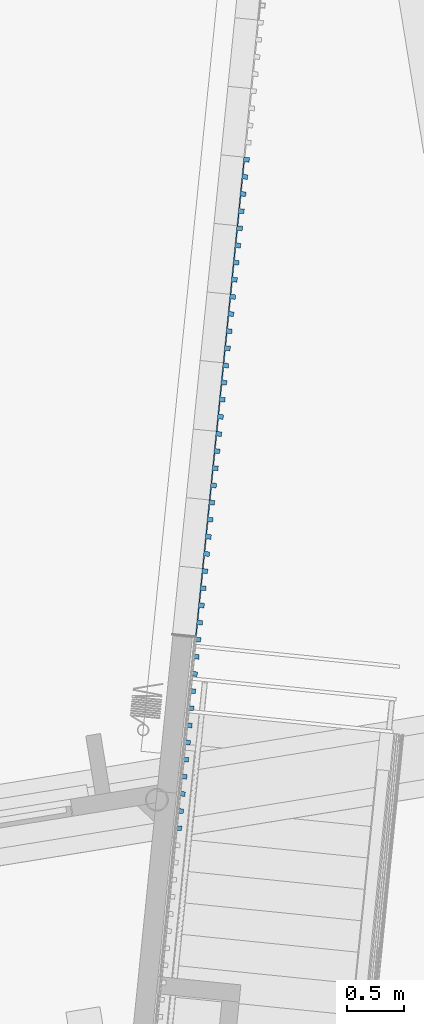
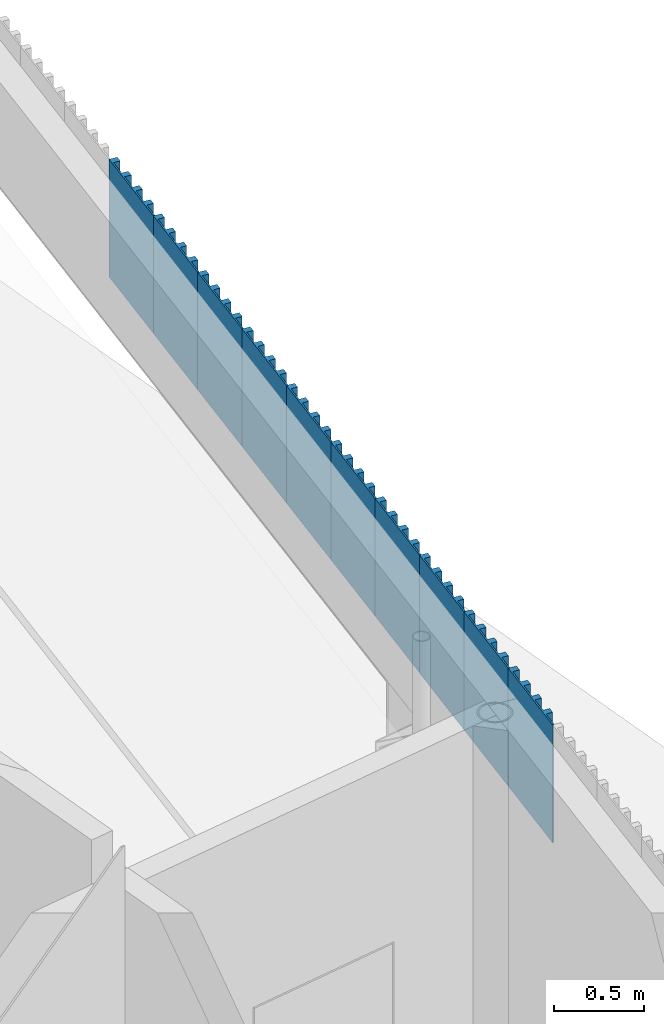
# One storey, part 15 of 23: 10 plates, 2 elements without a shape of their own.
"""IFC2X3 building model written with IfcOpenShell, lengths in millimetres."""

from ifc_helpers import new_model, entity, si_unit, converted_unit, derived_unit, direction, frame, origin, origin_with_axes, place, context, subcontext, project, spatial, faceted_brep, material, type_object, element, aggregate, save


model = new_model("IFC2X3")

# Units and contexts
plan_context = context("Plan", 3, precision=1e-05, world=origin_with_axes())
model_context = context("Model", 3, precision=0.01, world=origin(), true_north=direction((6.12323399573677e-17, 1.0)))
body_context = subcontext(model_context, "Body", "Model", "MODEL_VIEW")
ifc_project = project(units=[converted_unit("PLANEANGLEUNIT", "DEGREE", entity("IfcPositiveLengthMeasure", 0.0174532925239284), si_unit("PLANEANGLEUNIT", "RADIAN"), dimensions=[0, 0, 0, 0, 0, 0, 0]), si_unit("AREAUNIT", "SQUARE_METRE"), si_unit("LENGTHUNIT", "METRE", prefix="MILLI"), si_unit("MASSUNIT", "GRAM", prefix="KILO"), si_unit("POWERUNIT", "WATT"), si_unit("PRESSUREUNIT", "PASCAL", prefix="KILO"), si_unit("FORCEUNIT", "NEWTON", prefix="KILO"), si_unit("ELECTRICVOLTAGEUNIT", "VOLT"), si_unit("ELECTRICCURRENTUNIT", "AMPERE"), si_unit("THERMODYNAMICTEMPERATUREUNIT", "DEGREE_CELSIUS"), si_unit("TIMEUNIT", "SECOND"), si_unit("VOLUMEUNIT", "CUBIC_METRE"), derived_unit("LINEARVELOCITYUNIT", [(si_unit("LENGTHUNIT", "METRE"), 1), (si_unit("TIMEUNIT", "SECOND"), -1)]), derived_unit("VOLUMETRICFLOWRATEUNIT", [(si_unit("VOLUMEUNIT", "CUBIC_METRE"), 1), (si_unit("TIMEUNIT", "SECOND"), -1)]), derived_unit("THERMALTRANSMITTANCEUNIT", [(si_unit("POWERUNIT", "WATT"), 1), (si_unit("THERMODYNAMICTEMPERATUREUNIT", "KELVIN"), -1), (si_unit("AREAUNIT", "SQUARE_METRE"), -1)]), derived_unit("SOUNDPRESSUREUNIT", [(si_unit("PRESSUREUNIT", "PASCAL"), 1)])], contexts=[model_context, plan_context])

# Site, building, storey
site_placement = place(None, frame((-0.00071070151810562, 0.00438415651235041, 0.0), z_axis=(0.0, 0.0, 1.0), x_axis=(-0.160236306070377, 0.987078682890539, 0.0)))
site = spatial("IfcSite", under=ifc_project, at=site_placement, Name="Default", CompositionType="ELEMENT")
building_placement = place(site_placement, origin_with_axes())
building = spatial("IfcBuilding", under=site, at=building_placement, Name="TOO", CompositionType="ELEMENT")
storey_placement = place(building_placement, frame((0.0, 0.0, 58999.9999999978), z_axis=(0.0, 0.0, 1.0), x_axis=(1.0, 0.0, 0.0)))
storey = spatial("IfcBuildingStorey", under=building, at=storey_placement, Name="Nivå F", CompositionType="ELEMENT", Elevation=58999.9999999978)

# Curtain wall, plates
curtain_wall_type = type_object("IfcCurtainWallType", Name="Curtain Wall:Curtain Wall Standard (Bruk kun denne)", PredefinedType="NOTDEFINED")
curtain_wall_1_placement = place(storey_placement, frame((0.0, 0.0, -58999.9999999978), z_axis=(0.0, 0.0, 1.0), x_axis=(1.0, 0.0, 0.0)))
curtain_wall_1 = element("IfcCurtainWall", 1, at=curtain_wall_1_placement, inside=storey, type_object=curtain_wall_type, Name="Curtain Wall:Curtain Wall Standard (Bruk kun denne)", ObjectType="Curtain Wall:Curtain Wall Standard (Bruk kun denne)")
ifc_material = material(Name="A200 - Treverk - Eik")
plate_type_1 = type_object("IfcPlateType", Name="A246 - T01 Trespiler-panel 600:A246-T01 Trespiler-panel 600", PredefinedType="CURTAIN_PANEL", material=ifc_material)
plate_1_placement = place(curtain_wall_1_placement, frame((770772.824268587, -506676.341001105, 61699.9999999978), z_axis=(0.0, 0.0, 1.0), x_axis=(0.965925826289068, -0.258819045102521, 0.0)))
plate_1 = element("IfcPlate", 2, at=plate_1_placement, type_object=plate_type_1, Name="A246 - T01 Trespiler-panel 600:A246-T01 Trespiler-panel 600", ObjectType="A246 - T01 Trespiler-panel 600:A246-T01 Trespiler-panel 600", context=body_context, shape_type="Brep", body=[
    faceted_brep([(-150.0, -50.0000000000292, 800.000000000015), (-150.0, -9.99999999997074, 800.000000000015), (-150.0, -9.99999999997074, 0.0), (-150.0, -50.0000000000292, 0.0), (-190.0, -9.99999999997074, 800.000000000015), (-190.0, -9.99999999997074, 0.0), (-190.0, -50.0000000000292, 800.000000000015), (-190.0, -50.0000000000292, 0.0)], [[[0, 1, 2, 3]], [[1, 4, 5, 2]], [[4, 6, 7, 5]], [[6, 0, 3, 7]], [[3, 2, 5, 7]], [[6, 4, 1, 0]]], orient=[[False], [False], [False], [False], [False], [False]]),
    faceted_brep([(-3.5527136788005e-15, -50.0000000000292, 800.000000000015), (-3.5527136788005e-15, -9.99999999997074, 800.000000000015), (-3.5527136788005e-15, -9.99999999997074, 0.0), (-3.5527136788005e-15, -50.0000000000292, 0.0), (-40.0, -9.99999999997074, 800.000000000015), (-40.0, -9.99999999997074, 0.0), (-40.0, -50.0000000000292, 800.000000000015), (-40.0, -50.0000000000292, 0.0)], [[[0, 1, 2, 3]], [[1, 4, 5, 2]], [[4, 6, 7, 5]], [[6, 0, 3, 7]], [[3, 2, 5, 7]], [[6, 4, 1, 0]]], orient=[[False], [False], [False], [False], [False], [False]]),
    faceted_brep([(150.0, -50.0000000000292, 800.000000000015), (150.0, -9.99999999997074, 800.000000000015), (150.0, -9.99999999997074, 0.0), (150.0, -50.0000000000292, 0.0), (110.0, -9.99999999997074, 800.000000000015), (110.0, -9.99999999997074, 0.0), (110.0, -50.0000000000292, 800.000000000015), (110.0, -50.0000000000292, 0.0)], [[[0, 1, 2, 3]], [[1, 4, 5, 2]], [[4, 6, 7, 5]], [[6, 0, 3, 7]], [[3, 2, 5, 7]], [[6, 4, 1, 0]]], orient=[[False], [False], [False], [False], [False], [False]]),
    faceted_brep([(300.0, -50.0000000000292, 800.000000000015), (300.0, -9.99999999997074, 800.000000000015), (300.0, -9.99999999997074, 0.0), (300.0, -50.0000000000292, 0.0), (260.0, -9.99999999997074, 800.000000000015), (260.0, -9.99999999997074, 0.0), (260.0, -50.0000000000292, 800.000000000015), (260.0, -50.0000000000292, 0.0)], [[[0, 1, 2, 3]], [[1, 4, 5, 2]], [[4, 6, 7, 5]], [[6, 0, 3, 7]], [[3, 2, 5, 7]], [[6, 4, 1, 0]]], orient=[[False], [False], [False], [False], [False], [False]]),
    faceted_brep([(300.0, -10.0, 800.000000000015), (300.0, 0.0, 800.000000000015), (300.0, 0.0, 0.0), (300.0, -10.0, 0.0), (-300.0, 0.0, 800.000000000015), (-300.0, 0.0, 0.0), (-300.0, -10.0, 800.000000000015), (-300.0, -10.0, 0.0)], [[[0, 1, 2, 3]], [[1, 4, 5, 2]], [[4, 6, 7, 5]], [[6, 0, 3, 7]], [[3, 2, 5, 7]], [[6, 4, 1, 0]]], orient=[[False], [False], [False], [False], [False], [False]]),
])
plate_2_placement = place(curtain_wall_1_placement, frame((771352.37976436, -506831.632428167, 61699.9999999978), z_axis=(0.0, 0.0, 1.0), x_axis=(0.965925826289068, -0.258819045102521, 0.0)))
plate_2 = element("IfcPlate", 3, at=plate_2_placement, type_object=plate_type_1, Name="A246 - T01 Trespiler-panel 600:A246-T01 Trespiler-panel 600", ObjectType="A246 - T01 Trespiler-panel 600:A246-T01 Trespiler-panel 600", context=body_context, shape_type="Brep", body=[
    faceted_brep([(-150.0, -50.0000000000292, 800.000000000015), (-150.0, -9.99999999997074, 800.000000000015), (-150.0, -9.99999999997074, 0.0), (-150.0, -50.0000000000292, 0.0), (-190.0, -9.99999999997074, 800.000000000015), (-190.0, -9.99999999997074, 0.0), (-190.0, -50.0000000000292, 800.000000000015), (-190.0, -50.0000000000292, 0.0)], [[[0, 1, 2, 3]], [[1, 4, 5, 2]], [[4, 6, 7, 5]], [[6, 0, 3, 7]], [[3, 2, 5, 7]], [[6, 4, 1, 0]]], orient=[[False], [False], [False], [False], [False], [False]]),
    faceted_brep([(-3.5527136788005e-15, -50.0000000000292, 800.000000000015), (-3.5527136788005e-15, -9.99999999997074, 800.000000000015), (-3.5527136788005e-15, -9.99999999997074, 0.0), (-3.5527136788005e-15, -50.0000000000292, 0.0), (-40.0, -9.99999999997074, 800.000000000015), (-40.0, -9.99999999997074, 0.0), (-40.0, -50.0000000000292, 800.000000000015), (-40.0, -50.0000000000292, 0.0)], [[[0, 1, 2, 3]], [[1, 4, 5, 2]], [[4, 6, 7, 5]], [[6, 0, 3, 7]], [[3, 2, 5, 7]], [[6, 4, 1, 0]]], orient=[[False], [False], [False], [False], [False], [False]]),
    faceted_brep([(150.0, -50.0000000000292, 800.000000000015), (150.0, -9.99999999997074, 800.000000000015), (150.0, -9.99999999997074, 0.0), (150.0, -50.0000000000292, 0.0), (110.0, -9.99999999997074, 800.000000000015), (110.0, -9.99999999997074, 0.0), (110.0, -50.0000000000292, 800.000000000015), (110.0, -50.0000000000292, 0.0)], [[[0, 1, 2, 3]], [[1, 4, 5, 2]], [[4, 6, 7, 5]], [[6, 0, 3, 7]], [[3, 2, 5, 7]], [[6, 4, 1, 0]]], orient=[[False], [False], [False], [False], [False], [False]]),
    faceted_brep([(300.0, -50.0000000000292, 800.000000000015), (300.0, -9.99999999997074, 800.000000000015), (300.0, -9.99999999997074, 0.0), (300.0, -50.0000000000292, 0.0), (260.0, -9.99999999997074, 800.000000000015), (260.0, -9.99999999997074, 0.0), (260.0, -50.0000000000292, 800.000000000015), (260.0, -50.0000000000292, 0.0)], [[[0, 1, 2, 3]], [[1, 4, 5, 2]], [[4, 6, 7, 5]], [[6, 0, 3, 7]], [[3, 2, 5, 7]], [[6, 4, 1, 0]]], orient=[[False], [False], [False], [False], [False], [False]]),
    faceted_brep([(300.0, -10.0, 800.000000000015), (300.0, 0.0, 800.000000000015), (300.0, 0.0, 0.0), (300.0, -10.0, 0.0), (-300.0, 0.0, 800.000000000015), (-300.0, 0.0, 0.0), (-300.0, -10.0, 800.000000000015), (-300.0, -10.0, 0.0)], [[[0, 1, 2, 3]], [[1, 4, 5, 2]], [[4, 6, 7, 5]], [[6, 0, 3, 7]], [[3, 2, 5, 7]], [[6, 4, 1, 0]]], orient=[[False], [False], [False], [False], [False], [False]]),
])
plate_3_placement = place(curtain_wall_1_placement, frame((771931.935260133, -506986.923855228, 61699.9999999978), z_axis=(0.0, 0.0, 1.0), x_axis=(0.965925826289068, -0.258819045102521, 0.0)))
plate_3 = element("IfcPlate", 4, at=plate_3_placement, type_object=plate_type_1, Name="A246 - T01 Trespiler-panel 600:A246-T01 Trespiler-panel 600", ObjectType="A246 - T01 Trespiler-panel 600:A246-T01 Trespiler-panel 600", context=body_context, shape_type="Brep", body=[
    faceted_brep([(-150.0, -50.0000000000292, 800.000000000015), (-150.0, -9.99999999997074, 800.000000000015), (-150.0, -9.99999999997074, 0.0), (-150.0, -50.0000000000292, 0.0), (-190.0, -9.99999999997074, 800.000000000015), (-190.0, -9.99999999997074, 0.0), (-190.0, -50.0000000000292, 800.000000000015), (-190.0, -50.0000000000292, 0.0)], [[[0, 1, 2, 3]], [[1, 4, 5, 2]], [[4, 6, 7, 5]], [[6, 0, 3, 7]], [[3, 2, 5, 7]], [[6, 4, 1, 0]]], orient=[[False], [False], [False], [False], [False], [False]]),
    faceted_brep([(-3.5527136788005e-15, -50.0000000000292, 800.000000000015), (-3.5527136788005e-15, -9.99999999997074, 800.000000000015), (-3.5527136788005e-15, -9.99999999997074, 0.0), (-3.5527136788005e-15, -50.0000000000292, 0.0), (-40.0, -9.99999999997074, 800.000000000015), (-40.0, -9.99999999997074, 0.0), (-40.0, -50.0000000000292, 800.000000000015), (-40.0, -50.0000000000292, 0.0)], [[[0, 1, 2, 3]], [[1, 4, 5, 2]], [[4, 6, 7, 5]], [[6, 0, 3, 7]], [[3, 2, 5, 7]], [[6, 4, 1, 0]]], orient=[[False], [False], [False], [False], [False], [False]]),
    faceted_brep([(150.0, -50.0000000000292, 800.000000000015), (150.0, -9.99999999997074, 800.000000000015), (150.0, -9.99999999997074, 0.0), (150.0, -50.0000000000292, 0.0), (110.0, -9.99999999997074, 800.000000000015), (110.0, -9.99999999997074, 0.0), (110.0, -50.0000000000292, 800.000000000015), (110.0, -50.0000000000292, 0.0)], [[[0, 1, 2, 3]], [[1, 4, 5, 2]], [[4, 6, 7, 5]], [[6, 0, 3, 7]], [[3, 2, 5, 7]], [[6, 4, 1, 0]]], orient=[[False], [False], [False], [False], [False], [False]]),
    faceted_brep([(300.0, -50.0000000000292, 800.000000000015), (300.0, -9.99999999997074, 800.000000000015), (300.0, -9.99999999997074, 0.0), (300.0, -50.0000000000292, 0.0), (260.0, -9.99999999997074, 800.000000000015), (260.0, -9.99999999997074, 0.0), (260.0, -50.0000000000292, 800.000000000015), (260.0, -50.0000000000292, 0.0)], [[[0, 1, 2, 3]], [[1, 4, 5, 2]], [[4, 6, 7, 5]], [[6, 0, 3, 7]], [[3, 2, 5, 7]], [[6, 4, 1, 0]]], orient=[[False], [False], [False], [False], [False], [False]]),
    faceted_brep([(300.0, -10.0, 800.000000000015), (300.0, 0.0, 800.000000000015), (300.0, 0.0, 0.0), (300.0, -10.0, 0.0), (-300.0, 0.0, 800.000000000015), (-300.0, 0.0, 0.0), (-300.0, -10.0, 800.000000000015), (-300.0, -10.0, 0.0)], [[[0, 1, 2, 3]], [[1, 4, 5, 2]], [[4, 6, 7, 5]], [[6, 0, 3, 7]], [[3, 2, 5, 7]], [[6, 4, 1, 0]]], orient=[[False], [False], [False], [False], [False], [False]]),
])
aggregate(curtain_wall_1, [plate_1, plate_2, plate_3])

curtain_wall_2_placement = place(storey_placement, frame((0.0, 0.0, -58999.9999999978), z_axis=(0.0, 0.0, 1.0), x_axis=(1.0, 0.0, 0.0)))
curtain_wall_2 = element("IfcCurtainWall", 5, at=curtain_wall_2_placement, inside=storey, type_object=curtain_wall_type, Name="Curtain Wall:Curtain Wall Standard (Bruk kun denne)", ObjectType="Curtain Wall:Curtain Wall Standard (Bruk kun denne)")
plate_type_2 = type_object("IfcPlateType", Name="A246 - T01 Trespiler-panel 600:A246-T01 Trespiler-panel 600", PredefinedType="CURTAIN_PANEL", material=ifc_material)
plate_4_placement = place(curtain_wall_2_placement, frame((774250.157243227, -507608.089563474, 61702.4999999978), z_axis=(0.0, 0.0, 1.0), x_axis=(0.965925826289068, -0.258819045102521, 0.0)))
plate_4 = element("IfcPlate", 6, at=plate_4_placement, type_object=plate_type_2, Name="A246 - T01 Trespiler-panel 600:A246-T01 Trespiler-panel 600", ObjectType="A246 - T01 Trespiler-panel 600:A246-T01 Trespiler-panel 600", context=body_context, shape_type="Brep", body=[
    faceted_brep([(-150.0, -49.999999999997, 797.499999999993), (-150.0, -10.000000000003, 797.499999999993), (-150.0, -10.000000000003, 0.0), (-150.0, -49.999999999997, 0.0), (-190.0, -10.000000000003, 797.499999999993), (-190.0, -10.000000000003, 0.0), (-190.0, -49.999999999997, 797.499999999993), (-190.0, -49.999999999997, 0.0)], [[[0, 1, 2, 3]], [[1, 4, 5, 2]], [[4, 6, 7, 5]], [[6, 0, 3, 7]], [[3, 2, 5, 7]], [[6, 4, 1, 0]]], orient=[[False], [False], [False], [False], [False], [False]]),
    faceted_brep([(-3.5527136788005e-15, -49.999999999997, 797.499999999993), (-3.5527136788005e-15, -10.000000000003, 797.499999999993), (-3.5527136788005e-15, -10.000000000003, 0.0), (-3.5527136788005e-15, -49.999999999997, 0.0), (-40.0, -10.000000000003, 797.499999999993), (-40.0, -10.000000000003, 0.0), (-40.0, -49.999999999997, 797.499999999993), (-40.0, -49.999999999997, 0.0)], [[[0, 1, 2, 3]], [[1, 4, 5, 2]], [[4, 6, 7, 5]], [[6, 0, 3, 7]], [[3, 2, 5, 7]], [[6, 4, 1, 0]]], orient=[[False], [False], [False], [False], [False], [False]]),
    faceted_brep([(150.0, -49.999999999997, 797.499999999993), (150.0, -10.000000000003, 797.499999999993), (150.0, -10.000000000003, 0.0), (150.0, -49.999999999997, 0.0), (110.0, -10.000000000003, 797.499999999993), (110.0, -10.000000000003, 0.0), (110.0, -49.999999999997, 797.499999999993), (110.0, -49.999999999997, 0.0)], [[[0, 1, 2, 3]], [[1, 4, 5, 2]], [[4, 6, 7, 5]], [[6, 0, 3, 7]], [[3, 2, 5, 7]], [[6, 4, 1, 0]]], orient=[[False], [False], [False], [False], [False], [False]]),
    faceted_brep([(300.0, -49.999999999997, 797.499999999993), (300.0, -10.000000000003, 797.499999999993), (300.0, -10.000000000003, 0.0), (300.0, -49.999999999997, 0.0), (260.0, -10.000000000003, 797.499999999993), (260.0, -10.000000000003, 0.0), (260.0, -49.999999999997, 797.499999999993), (260.0, -49.999999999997, 0.0)], [[[0, 1, 2, 3]], [[1, 4, 5, 2]], [[4, 6, 7, 5]], [[6, 0, 3, 7]], [[3, 2, 5, 7]], [[6, 4, 1, 0]]], orient=[[False], [False], [False], [False], [False], [False]]),
    faceted_brep([(300.0, -10.0, 797.499999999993), (300.0, 0.0, 797.499999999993), (300.0, 0.0, 0.0), (300.0, -10.0, 0.0), (-300.0, 0.0, 797.499999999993), (-300.0, 0.0, 0.0), (-300.0, -10.0, 797.499999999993), (-300.0, -10.0, 0.0)], [[[0, 1, 2, 3]], [[1, 4, 5, 2]], [[4, 6, 7, 5]], [[6, 0, 3, 7]], [[3, 2, 5, 7]], [[6, 4, 1, 0]]], orient=[[False], [False], [False], [False], [False], [False]]),
])
plate_5_placement = place(curtain_wall_2_placement, frame((774829.712739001, -507763.380990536, 61702.4999999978), z_axis=(0.0, 0.0, 1.0), x_axis=(0.965925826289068, -0.258819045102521, 0.0)))
plate_5 = element("IfcPlate", 7, at=plate_5_placement, type_object=plate_type_2, Name="A246 - T01 Trespiler-panel 600:A246-T01 Trespiler-panel 600", ObjectType="A246 - T01 Trespiler-panel 600:A246-T01 Trespiler-panel 600", context=body_context, shape_type="Brep", body=[
    faceted_brep([(-150.0, -49.999999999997, 797.499999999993), (-150.0, -10.000000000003, 797.499999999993), (-150.0, -10.000000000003, 0.0), (-150.0, -49.999999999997, 0.0), (-190.0, -10.000000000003, 797.499999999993), (-190.0, -10.000000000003, 0.0), (-190.0, -49.999999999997, 797.499999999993), (-190.0, -49.999999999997, 0.0)], [[[0, 1, 2, 3]], [[1, 4, 5, 2]], [[4, 6, 7, 5]], [[6, 0, 3, 7]], [[3, 2, 5, 7]], [[6, 4, 1, 0]]], orient=[[False], [False], [False], [False], [False], [False]]),
    faceted_brep([(-3.5527136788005e-15, -49.999999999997, 797.499999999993), (-3.5527136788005e-15, -10.000000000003, 797.499999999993), (-3.5527136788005e-15, -10.000000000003, 0.0), (-3.5527136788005e-15, -49.999999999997, 0.0), (-40.0, -10.000000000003, 797.499999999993), (-40.0, -10.000000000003, 0.0), (-40.0, -49.999999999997, 797.499999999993), (-40.0, -49.999999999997, 0.0)], [[[0, 1, 2, 3]], [[1, 4, 5, 2]], [[4, 6, 7, 5]], [[6, 0, 3, 7]], [[3, 2, 5, 7]], [[6, 4, 1, 0]]], orient=[[False], [False], [False], [False], [False], [False]]),
    faceted_brep([(150.0, -49.999999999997, 797.499999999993), (150.0, -10.000000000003, 797.499999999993), (150.0, -10.000000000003, 0.0), (150.0, -49.999999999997, 0.0), (110.0, -10.000000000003, 797.499999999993), (110.0, -10.000000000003, 0.0), (110.0, -49.999999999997, 797.499999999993), (110.0, -49.999999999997, 0.0)], [[[0, 1, 2, 3]], [[1, 4, 5, 2]], [[4, 6, 7, 5]], [[6, 0, 3, 7]], [[3, 2, 5, 7]], [[6, 4, 1, 0]]], orient=[[False], [False], [False], [False], [False], [False]]),
    faceted_brep([(300.0, -49.999999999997, 797.499999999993), (300.0, -10.000000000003, 797.499999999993), (300.0, -10.000000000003, 0.0), (300.0, -49.999999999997, 0.0), (260.0, -10.000000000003, 797.499999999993), (260.0, -10.000000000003, 0.0), (260.0, -49.999999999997, 797.499999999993), (260.0, -49.999999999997, 0.0)], [[[0, 1, 2, 3]], [[1, 4, 5, 2]], [[4, 6, 7, 5]], [[6, 0, 3, 7]], [[3, 2, 5, 7]], [[6, 4, 1, 0]]], orient=[[False], [False], [False], [False], [False], [False]]),
    faceted_brep([(300.0, -10.0, 797.499999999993), (300.0, 0.0, 797.499999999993), (300.0, 0.0, 0.0), (300.0, -10.0, 0.0), (-300.0, 0.0, 797.499999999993), (-300.0, 0.0, 0.0), (-300.0, -10.0, 797.499999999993), (-300.0, -10.0, 0.0)], [[[0, 1, 2, 3]], [[1, 4, 5, 2]], [[4, 6, 7, 5]], [[6, 0, 3, 7]], [[3, 2, 5, 7]], [[6, 4, 1, 0]]], orient=[[False], [False], [False], [False], [False], [False]]),
])
plate_6_placement = place(curtain_wall_2_placement, frame((775409.268234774, -507918.672417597, 61702.4999999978), z_axis=(0.0, 0.0, 1.0), x_axis=(0.965925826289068, -0.258819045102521, 0.0)))
plate_6 = element("IfcPlate", 8, at=plate_6_placement, type_object=plate_type_2, Name="A246 - T01 Trespiler-panel 600:A246-T01 Trespiler-panel 600", ObjectType="A246 - T01 Trespiler-panel 600:A246-T01 Trespiler-panel 600", context=body_context, shape_type="Brep", body=[
    faceted_brep([(-150.0, -49.999999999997, 797.499999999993), (-150.0, -10.000000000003, 797.499999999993), (-150.0, -10.000000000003, 0.0), (-150.0, -49.999999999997, 0.0), (-190.0, -10.000000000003, 797.499999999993), (-190.0, -10.000000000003, 0.0), (-190.0, -49.999999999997, 797.499999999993), (-190.0, -49.999999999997, 0.0)], [[[0, 1, 2, 3]], [[1, 4, 5, 2]], [[4, 6, 7, 5]], [[6, 0, 3, 7]], [[3, 2, 5, 7]], [[6, 4, 1, 0]]], orient=[[False], [False], [False], [False], [False], [False]]),
    faceted_brep([(-3.5527136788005e-15, -49.999999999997, 797.499999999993), (-3.5527136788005e-15, -10.000000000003, 797.499999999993), (-3.5527136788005e-15, -10.000000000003, 0.0), (-3.5527136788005e-15, -49.999999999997, 0.0), (-40.0, -10.000000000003, 797.499999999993), (-40.0, -10.000000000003, 0.0), (-40.0, -49.999999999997, 797.499999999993), (-40.0, -49.999999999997, 0.0)], [[[0, 1, 2, 3]], [[1, 4, 5, 2]], [[4, 6, 7, 5]], [[6, 0, 3, 7]], [[3, 2, 5, 7]], [[6, 4, 1, 0]]], orient=[[False], [False], [False], [False], [False], [False]]),
    faceted_brep([(150.0, -49.999999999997, 797.499999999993), (150.0, -10.000000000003, 797.499999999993), (150.0, -10.000000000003, 0.0), (150.0, -49.999999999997, 0.0), (110.0, -10.000000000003, 797.499999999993), (110.0, -10.000000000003, 0.0), (110.0, -49.999999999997, 797.499999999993), (110.0, -49.999999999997, 0.0)], [[[0, 1, 2, 3]], [[1, 4, 5, 2]], [[4, 6, 7, 5]], [[6, 0, 3, 7]], [[3, 2, 5, 7]], [[6, 4, 1, 0]]], orient=[[False], [False], [False], [False], [False], [False]]),
    faceted_brep([(300.0, -49.999999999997, 797.499999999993), (300.0, -10.000000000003, 797.499999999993), (300.0, -10.000000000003, 0.0), (300.0, -49.999999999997, 0.0), (260.0, -10.000000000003, 797.499999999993), (260.0, -10.000000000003, 0.0), (260.0, -49.999999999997, 797.499999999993), (260.0, -49.999999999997, 0.0)], [[[0, 1, 2, 3]], [[1, 4, 5, 2]], [[4, 6, 7, 5]], [[6, 0, 3, 7]], [[3, 2, 5, 7]], [[6, 4, 1, 0]]], orient=[[False], [False], [False], [False], [False], [False]]),
    faceted_brep([(300.0, -10.0, 797.499999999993), (300.0, 0.0, 797.499999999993), (300.0, 0.0, 0.0), (300.0, -10.0, 0.0), (-300.0, 0.0, 797.499999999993), (-300.0, 0.0, 0.0), (-300.0, -10.0, 797.499999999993), (-300.0, -10.0, 0.0)], [[[0, 1, 2, 3]], [[1, 4, 5, 2]], [[4, 6, 7, 5]], [[6, 0, 3, 7]], [[3, 2, 5, 7]], [[6, 4, 1, 0]]], orient=[[False], [False], [False], [False], [False], [False]]),
])
plate_7_placement = place(curtain_wall_2_placement, frame((775988.823730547, -508073.963844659, 61702.4999999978), z_axis=(0.0, 0.0, 1.0), x_axis=(0.965925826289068, -0.258819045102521, 0.0)))
plate_7 = element("IfcPlate", 9, at=plate_7_placement, type_object=plate_type_2, Name="A246 - T01 Trespiler-panel 600:A246-T01 Trespiler-panel 600", ObjectType="A246 - T01 Trespiler-panel 600:A246-T01 Trespiler-panel 600", context=body_context, shape_type="Brep", body=[
    faceted_brep([(-150.0, -49.999999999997, 797.499999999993), (-150.0, -10.000000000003, 797.499999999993), (-150.0, -10.000000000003, 0.0), (-150.0, -49.999999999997, 0.0), (-190.0, -10.000000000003, 797.499999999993), (-190.0, -10.000000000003, 0.0), (-190.0, -49.999999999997, 797.499999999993), (-190.0, -49.999999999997, 0.0)], [[[0, 1, 2, 3]], [[1, 4, 5, 2]], [[4, 6, 7, 5]], [[6, 0, 3, 7]], [[3, 2, 5, 7]], [[6, 4, 1, 0]]], orient=[[False], [False], [False], [False], [False], [False]]),
    faceted_brep([(-3.5527136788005e-15, -49.999999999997, 797.499999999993), (-3.5527136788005e-15, -10.000000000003, 797.499999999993), (-3.5527136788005e-15, -10.000000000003, 0.0), (-3.5527136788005e-15, -49.999999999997, 0.0), (-40.0, -10.000000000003, 797.499999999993), (-40.0, -10.000000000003, 0.0), (-40.0, -49.999999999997, 797.499999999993), (-40.0, -49.999999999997, 0.0)], [[[0, 1, 2, 3]], [[1, 4, 5, 2]], [[4, 6, 7, 5]], [[6, 0, 3, 7]], [[3, 2, 5, 7]], [[6, 4, 1, 0]]], orient=[[False], [False], [False], [False], [False], [False]]),
    faceted_brep([(150.0, -49.999999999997, 797.499999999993), (150.0, -10.000000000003, 797.499999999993), (150.0, -10.000000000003, 0.0), (150.0, -49.999999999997, 0.0), (110.0, -10.000000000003, 797.499999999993), (110.0, -10.000000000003, 0.0), (110.0, -49.999999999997, 797.499999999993), (110.0, -49.999999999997, 0.0)], [[[0, 1, 2, 3]], [[1, 4, 5, 2]], [[4, 6, 7, 5]], [[6, 0, 3, 7]], [[3, 2, 5, 7]], [[6, 4, 1, 0]]], orient=[[False], [False], [False], [False], [False], [False]]),
    faceted_brep([(300.0, -49.999999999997, 797.499999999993), (300.0, -10.000000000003, 797.499999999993), (300.0, -10.000000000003, 0.0), (300.0, -49.999999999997, 0.0), (260.0, -10.000000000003, 797.499999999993), (260.0, -10.000000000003, 0.0), (260.0, -49.999999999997, 797.499999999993), (260.0, -49.999999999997, 0.0)], [[[0, 1, 2, 3]], [[1, 4, 5, 2]], [[4, 6, 7, 5]], [[6, 0, 3, 7]], [[3, 2, 5, 7]], [[6, 4, 1, 0]]], orient=[[False], [False], [False], [False], [False], [False]]),
    faceted_brep([(300.0, -10.0, 797.499999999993), (300.0, 0.0, 797.499999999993), (300.0, 0.0, 0.0), (300.0, -10.0, 0.0), (-300.0, 0.0, 797.499999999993), (-300.0, 0.0, 0.0), (-300.0, -10.0, 797.499999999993), (-300.0, -10.0, 0.0)], [[[0, 1, 2, 3]], [[1, 4, 5, 2]], [[4, 6, 7, 5]], [[6, 0, 3, 7]], [[3, 2, 5, 7]], [[6, 4, 1, 0]]], orient=[[False], [False], [False], [False], [False], [False]]),
])
plate_8_placement = place(curtain_wall_2_placement, frame((772511.490755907, -507142.21528229, 61702.4999999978), z_axis=(0.0, 0.0, 1.0), x_axis=(0.965925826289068, -0.258819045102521, 0.0)))
plate_8 = element("IfcPlate", 10, at=plate_8_placement, type_object=plate_type_2, Name="A246 - T01 Trespiler-panel 600:A246-T01 Trespiler-panel 600", ObjectType="A246 - T01 Trespiler-panel 600:A246-T01 Trespiler-panel 600", context=body_context, shape_type="Brep", body=[
    faceted_brep([(-150.0, -49.999999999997, 797.499999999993), (-150.0, -10.000000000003, 797.499999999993), (-150.0, -10.000000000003, 0.0), (-150.0, -49.999999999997, 0.0), (-190.0, -10.000000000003, 797.499999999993), (-190.0, -10.000000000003, 0.0), (-190.0, -49.999999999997, 797.499999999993), (-190.0, -49.999999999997, 0.0)], [[[0, 1, 2, 3]], [[1, 4, 5, 2]], [[4, 6, 7, 5]], [[6, 0, 3, 7]], [[3, 2, 5, 7]], [[6, 4, 1, 0]]], orient=[[False], [False], [False], [False], [False], [False]]),
    faceted_brep([(-3.5527136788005e-15, -49.999999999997, 797.499999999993), (-3.5527136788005e-15, -10.000000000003, 797.499999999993), (-3.5527136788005e-15, -10.000000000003, 0.0), (-3.5527136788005e-15, -49.999999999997, 0.0), (-40.0, -10.000000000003, 797.499999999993), (-40.0, -10.000000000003, 0.0), (-40.0, -49.999999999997, 797.499999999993), (-40.0, -49.999999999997, 0.0)], [[[0, 1, 2, 3]], [[1, 4, 5, 2]], [[4, 6, 7, 5]], [[6, 0, 3, 7]], [[3, 2, 5, 7]], [[6, 4, 1, 0]]], orient=[[False], [False], [False], [False], [False], [False]]),
    faceted_brep([(150.0, -49.999999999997, 797.499999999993), (150.0, -10.000000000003, 797.499999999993), (150.0, -10.000000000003, 0.0), (150.0, -49.999999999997, 0.0), (110.0, -10.000000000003, 797.499999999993), (110.0, -10.000000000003, 0.0), (110.0, -49.999999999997, 797.499999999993), (110.0, -49.999999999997, 0.0)], [[[0, 1, 2, 3]], [[1, 4, 5, 2]], [[4, 6, 7, 5]], [[6, 0, 3, 7]], [[3, 2, 5, 7]], [[6, 4, 1, 0]]], orient=[[False], [False], [False], [False], [False], [False]]),
    faceted_brep([(300.0, -49.999999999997, 797.499999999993), (300.0, -10.000000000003, 797.499999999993), (300.0, -10.000000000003, 0.0), (300.0, -49.999999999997, 0.0), (260.0, -10.000000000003, 797.499999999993), (260.0, -10.000000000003, 0.0), (260.0, -49.999999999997, 797.499999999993), (260.0, -49.999999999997, 0.0)], [[[0, 1, 2, 3]], [[1, 4, 5, 2]], [[4, 6, 7, 5]], [[6, 0, 3, 7]], [[3, 2, 5, 7]], [[6, 4, 1, 0]]], orient=[[False], [False], [False], [False], [False], [False]]),
    faceted_brep([(300.0, -10.0, 797.499999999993), (300.0, 0.0, 797.499999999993), (300.0, 0.0, 0.0), (300.0, -10.0, 0.0), (-300.0, 0.0, 797.499999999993), (-300.0, 0.0, 0.0), (-300.0, -10.0, 797.499999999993), (-300.0, -10.0, 0.0)], [[[0, 1, 2, 3]], [[1, 4, 5, 2]], [[4, 6, 7, 5]], [[6, 0, 3, 7]], [[3, 2, 5, 7]], [[6, 4, 1, 0]]], orient=[[False], [False], [False], [False], [False], [False]]),
])
plate_9_placement = place(curtain_wall_2_placement, frame((773091.04625168, -507297.506709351, 61702.4999999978), z_axis=(0.0, 0.0, 1.0), x_axis=(0.965925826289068, -0.258819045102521, 0.0)))
plate_9 = element("IfcPlate", 11, at=plate_9_placement, type_object=plate_type_2, Name="A246 - T01 Trespiler-panel 600:A246-T01 Trespiler-panel 600", ObjectType="A246 - T01 Trespiler-panel 600:A246-T01 Trespiler-panel 600", context=body_context, shape_type="Brep", body=[
    faceted_brep([(-150.0, -49.999999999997, 797.499999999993), (-150.0, -10.000000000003, 797.499999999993), (-150.0, -10.000000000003, 0.0), (-150.0, -49.999999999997, 0.0), (-190.0, -10.000000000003, 797.499999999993), (-190.0, -10.000000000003, 0.0), (-190.0, -49.999999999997, 797.499999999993), (-190.0, -49.999999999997, 0.0)], [[[0, 1, 2, 3]], [[1, 4, 5, 2]], [[4, 6, 7, 5]], [[6, 0, 3, 7]], [[3, 2, 5, 7]], [[6, 4, 1, 0]]], orient=[[False], [False], [False], [False], [False], [False]]),
    faceted_brep([(-3.5527136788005e-15, -49.999999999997, 797.499999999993), (-3.5527136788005e-15, -10.000000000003, 797.499999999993), (-3.5527136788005e-15, -10.000000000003, 0.0), (-3.5527136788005e-15, -49.999999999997, 0.0), (-40.0, -10.000000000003, 797.499999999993), (-40.0, -10.000000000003, 0.0), (-40.0, -49.999999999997, 797.499999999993), (-40.0, -49.999999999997, 0.0)], [[[0, 1, 2, 3]], [[1, 4, 5, 2]], [[4, 6, 7, 5]], [[6, 0, 3, 7]], [[3, 2, 5, 7]], [[6, 4, 1, 0]]], orient=[[False], [False], [False], [False], [False], [False]]),
    faceted_brep([(150.0, -49.999999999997, 797.499999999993), (150.0, -10.000000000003, 797.499999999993), (150.0, -10.000000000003, 0.0), (150.0, -49.999999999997, 0.0), (110.0, -10.000000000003, 797.499999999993), (110.0, -10.000000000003, 0.0), (110.0, -49.999999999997, 797.499999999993), (110.0, -49.999999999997, 0.0)], [[[0, 1, 2, 3]], [[1, 4, 5, 2]], [[4, 6, 7, 5]], [[6, 0, 3, 7]], [[3, 2, 5, 7]], [[6, 4, 1, 0]]], orient=[[False], [False], [False], [False], [False], [False]]),
    faceted_brep([(300.0, -49.999999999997, 797.499999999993), (300.0, -10.000000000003, 797.499999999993), (300.0, -10.000000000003, 0.0), (300.0, -49.999999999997, 0.0), (260.0, -10.000000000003, 797.499999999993), (260.0, -10.000000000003, 0.0), (260.0, -49.999999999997, 797.499999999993), (260.0, -49.999999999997, 0.0)], [[[0, 1, 2, 3]], [[1, 4, 5, 2]], [[4, 6, 7, 5]], [[6, 0, 3, 7]], [[3, 2, 5, 7]], [[6, 4, 1, 0]]], orient=[[False], [False], [False], [False], [False], [False]]),
    faceted_brep([(300.0, -10.0, 797.499999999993), (300.0, 0.0, 797.499999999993), (300.0, 0.0, 0.0), (300.0, -10.0, 0.0), (-300.0, 0.0, 797.499999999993), (-300.0, 0.0, 0.0), (-300.0, -10.0, 797.499999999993), (-300.0, -10.0, 0.0)], [[[0, 1, 2, 3]], [[1, 4, 5, 2]], [[4, 6, 7, 5]], [[6, 0, 3, 7]], [[3, 2, 5, 7]], [[6, 4, 1, 0]]], orient=[[False], [False], [False], [False], [False], [False]]),
])
plate_10_placement = place(curtain_wall_2_placement, frame((773670.601747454, -507452.798136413, 61702.4999999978), z_axis=(0.0, 0.0, 1.0), x_axis=(0.965925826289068, -0.258819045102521, 0.0)))
plate_10 = element("IfcPlate", 12, at=plate_10_placement, type_object=plate_type_2, Name="A246 - T01 Trespiler-panel 600:A246-T01 Trespiler-panel 600", ObjectType="A246 - T01 Trespiler-panel 600:A246-T01 Trespiler-panel 600", context=body_context, shape_type="Brep", body=[
    faceted_brep([(-150.0, -49.999999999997, 797.499999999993), (-150.0, -10.000000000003, 797.499999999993), (-150.0, -10.000000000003, 0.0), (-150.0, -49.999999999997, 0.0), (-190.0, -10.000000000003, 797.499999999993), (-190.0, -10.000000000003, 0.0), (-190.0, -49.999999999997, 797.499999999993), (-190.0, -49.999999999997, 0.0)], [[[0, 1, 2, 3]], [[1, 4, 5, 2]], [[4, 6, 7, 5]], [[6, 0, 3, 7]], [[3, 2, 5, 7]], [[6, 4, 1, 0]]], orient=[[False], [False], [False], [False], [False], [False]]),
    faceted_brep([(-3.5527136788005e-15, -49.999999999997, 797.499999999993), (-3.5527136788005e-15, -10.000000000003, 797.499999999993), (-3.5527136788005e-15, -10.000000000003, 0.0), (-3.5527136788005e-15, -49.999999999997, 0.0), (-40.0, -10.000000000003, 797.499999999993), (-40.0, -10.000000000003, 0.0), (-40.0, -49.999999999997, 797.499999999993), (-40.0, -49.999999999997, 0.0)], [[[0, 1, 2, 3]], [[1, 4, 5, 2]], [[4, 6, 7, 5]], [[6, 0, 3, 7]], [[3, 2, 5, 7]], [[6, 4, 1, 0]]], orient=[[False], [False], [False], [False], [False], [False]]),
    faceted_brep([(150.0, -49.999999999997, 797.499999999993), (150.0, -10.000000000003, 797.499999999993), (150.0, -10.000000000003, 0.0), (150.0, -49.999999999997, 0.0), (110.0, -10.000000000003, 797.499999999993), (110.0, -10.000000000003, 0.0), (110.0, -49.999999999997, 797.499999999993), (110.0, -49.999999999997, 0.0)], [[[0, 1, 2, 3]], [[1, 4, 5, 2]], [[4, 6, 7, 5]], [[6, 0, 3, 7]], [[3, 2, 5, 7]], [[6, 4, 1, 0]]], orient=[[False], [False], [False], [False], [False], [False]]),
    faceted_brep([(300.0, -49.999999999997, 797.499999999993), (300.0, -10.000000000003, 797.499999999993), (300.0, -10.000000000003, 0.0), (300.0, -49.999999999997, 0.0), (260.0, -10.000000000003, 797.499999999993), (260.0, -10.000000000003, 0.0), (260.0, -49.999999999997, 797.499999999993), (260.0, -49.999999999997, 0.0)], [[[0, 1, 2, 3]], [[1, 4, 5, 2]], [[4, 6, 7, 5]], [[6, 0, 3, 7]], [[3, 2, 5, 7]], [[6, 4, 1, 0]]], orient=[[False], [False], [False], [False], [False], [False]]),
    faceted_brep([(300.0, -10.0, 797.499999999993), (300.0, 0.0, 797.499999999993), (300.0, 0.0, 0.0), (300.0, -10.0, 0.0), (-300.0, 0.0, 797.499999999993), (-300.0, 0.0, 0.0), (-300.0, -10.0, 797.499999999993), (-300.0, -10.0, 0.0)], [[[0, 1, 2, 3]], [[1, 4, 5, 2]], [[4, 6, 7, 5]], [[6, 0, 3, 7]], [[3, 2, 5, 7]], [[6, 4, 1, 0]]], orient=[[False], [False], [False], [False], [False], [False]]),
])
aggregate(curtain_wall_2, [plate_4, plate_5, plate_6, plate_7, plate_8, plate_9, plate_10])

save(model, "model.ifc")
